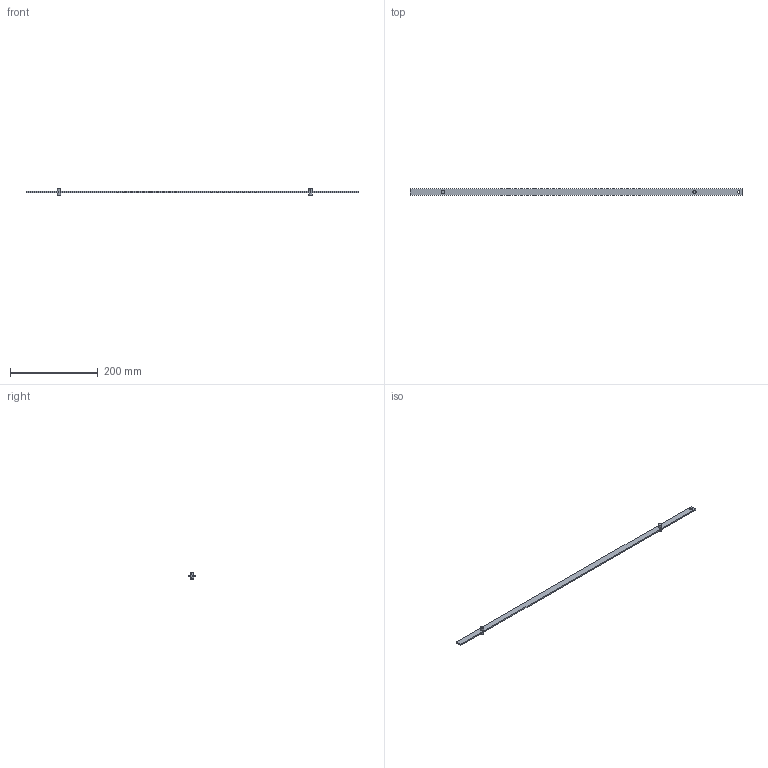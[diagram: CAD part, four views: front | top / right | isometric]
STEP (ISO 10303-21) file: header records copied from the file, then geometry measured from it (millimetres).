
FILE_DESCRIPTION (( 'STEP AP214' ), '1' );
FILE_NAME ('P28-751.STEP', '2016-08-18T09:46:46', ( 'RST-Dolba' ), ( '' ), 'SwSTEP 2.0', 'SolidWorks 2015', '' );
FILE_SCHEMA (( 'AUTOMOTIVE_DESIGN' ));
Length unit declared in the file: millimetre
Products named in the file (4): 1C.PDB.02.01.00_A; 1C.PD.B.Z.X.Y.01_P28-751; 1C.PDB.02.02.00_A; P28-751
Assembly tree (5 placements, depth 2):
  P28-751
    1C.PD.B.Z.X.Y.01_P28-751
    1C.PDB.02.01.00_A  x2
    1C.PDB.02.02.00_A  x2
Bounding box: 758.5 x 14 x 18.1 mm (x, y, z)
Volume: 33285.3 mm3; surface area: 27449.7 mm2
Topology: 5 solids, 5 shells, 72 faces, 150 edges, 90 vertices
Faces by surface type: cylinder 30, cone 24, plane 18
Entity records: 1316 total; most frequent: DIRECTION 234, CARTESIAN_POINT 193, ORIENTED_EDGE 176, AXIS2_PLACEMENT_3D 96, EDGE_CURVE 88, VERTEX_POINT 55, EDGE_LOOP 53, CIRCLE 46
